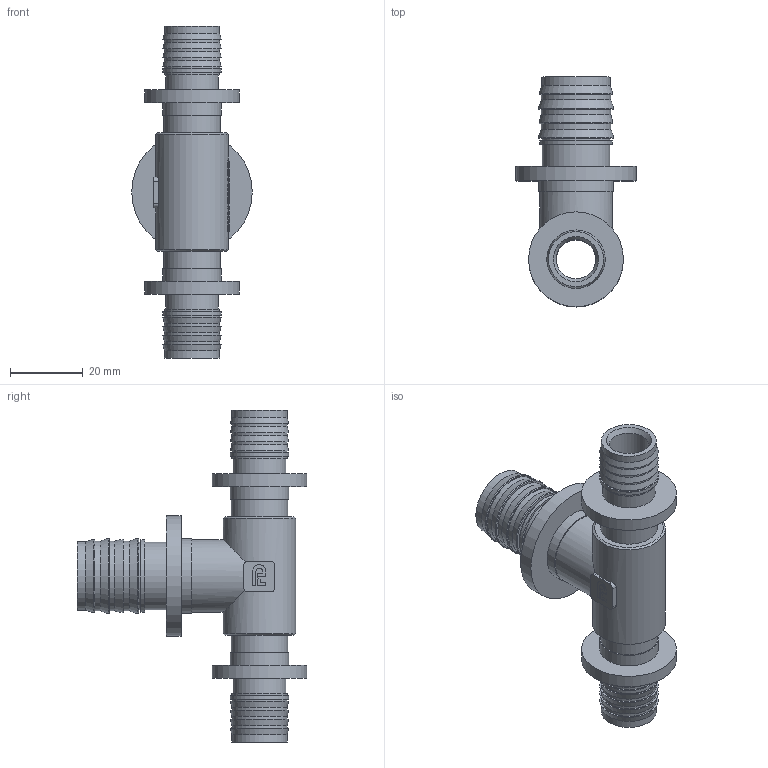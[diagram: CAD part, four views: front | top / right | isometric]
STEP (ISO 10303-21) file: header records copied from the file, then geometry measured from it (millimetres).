
FILE_DESCRIPTION(/* description */ (''),/* implementation_level */ '2;1');
FILE_NAME(/* name */ 'C:\Users\Doom\Desktop\Фадотех\Натяжка\FD-SFT29 NEW 20x25x20 24.12.2019\FD-SFT29 NEW 20x25x20 24.12.2019.stp',/* time_stamp */ '2022-07-24T18:59:21+03:00',/* author */ ('Doom'),/* organization */ (''),/* preprocessor_version */ 'ST-DEVELOPER v18',/* originating_system */ 'Autodesk Inventor 2020',/* authorisation */ '');
FILE_SCHEMA (('AUTOMOTIVE_DESIGN { 1 0 10303 214 3 1 1 }'));
Length unit declared in the file: millimetre
Products named in the file (1): FD-SFT29 NEW 20x25x20 24.12.2019
Bounding box: 33 x 63 x 91 mm (x, y, z)
Volume: 21914.6 mm3; surface area: 16261 mm2
Topology: 1 solids, 1 shells, 251 faces, 687 edges, 481 vertices
Faces by surface type: bspline 102, plane 82, cylinder 46, cone 17, torus 4
Full cylindrical faces by diameter (mm): 10.8 x1, 14.5 x2, 14.7 x1, 15.1 x12, 15.5 x2, 16 x4, 18.626 x2, 18.7 x1, 19.168 x3, 19.9 x1, 20 x2, 20.5 x1, 26 x2, 33 x1
Entity records: 10429 total; most frequent: CARTESIAN_POINT 4433, ORIENTED_EDGE 1374, DIRECTION 992, EDGE_CURVE 687, VERTEX_POINT 481, AXIS2_PLACEMENT_3D 368, EDGE_LOOP 298, LINE 256
